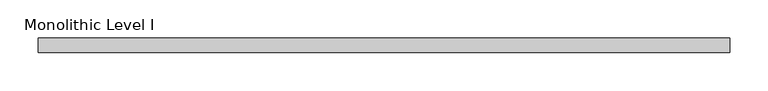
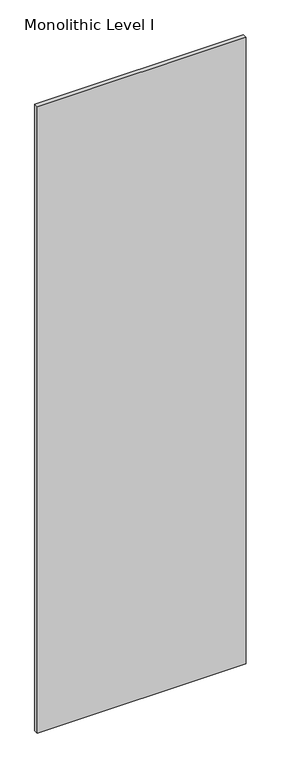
"""IFC4 building model written with IfcOpenShell, lengths in millimetres: proxy geometry, Panel-Fascia-Teknion-Altos-Standard : Monolithic Level I."""

from ifc_helpers import new_model, si_unit, frame, origin, place, context, project, spatial, polyline, outline, extrude, source, transform, mapped, element, save


def monolithic_level_i_604a00d2(model_context):
    return source(origin(), model_context, "Body", "SweptSolid", [
        extrude(outline(polyline([(454.025, 9.525), (454.025, -9.525), (-454.025, -9.525), (-454.025, 9.525), (454.025, 9.525)])), frame((0.0, 0.0, 3.175), z_axis=(0.0, 0.0, 1.0), x_axis=(1.0, 0.0, 0.0)), (0.0, 0.0, 1.0), 2877.693),
    ])


if __name__ == "__main__":
    model = new_model("IFC4")
    model_context = context("Model", 3, world=origin())
    ifc_project = project(units=[si_unit("LENGTHUNIT", "METRE", prefix="MILLI")], contexts=[model_context])
    site = spatial("IfcSite", under=ifc_project)
    building = spatial("IfcBuilding", under=site)
    placement = place(None, origin())
    monolithic_level_i_shape = monolithic_level_i_604a00d2(model_context)
    element("IfcBuildingElementProxy", 1, Name="Panel-Fascia-Teknion-Altos-Standard : Monolithic Level I", ObjectType="Panel-Fascia-Teknion-Altos-Standard : Monolithic Level I", at=placement, inside=building, context=model_context, shape_type="MappedRepresentation", body=[
        mapped(monolithic_level_i_shape, transform((0.0, 0.0, 0.0), x_axis=(1.0, 0.0, 0.0), y_axis=(0.0, 1.0, 0.0), z_axis=(0.0, 0.0, 1.0))),
    ])
    save(model, "model.ifc")
